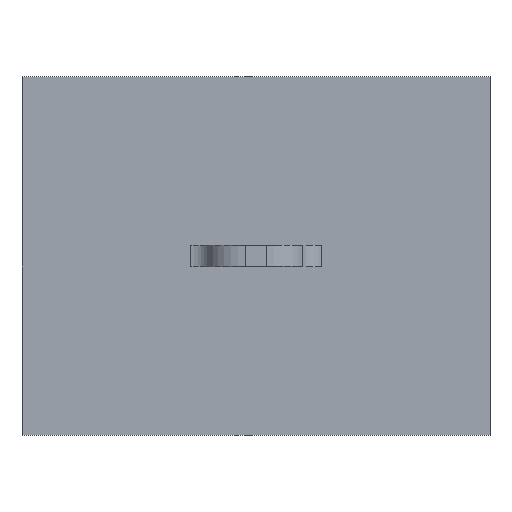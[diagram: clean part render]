
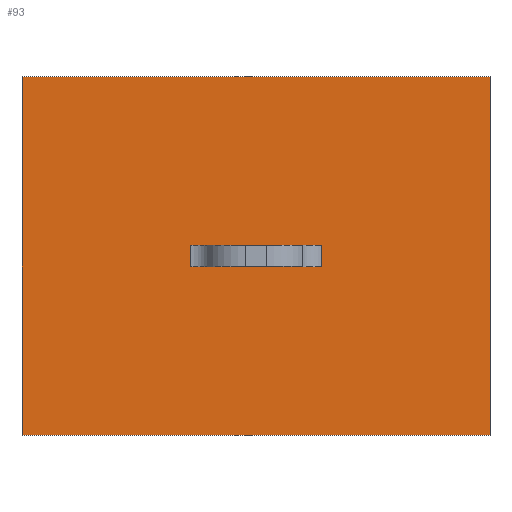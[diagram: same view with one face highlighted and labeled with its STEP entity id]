
A CAD part, top view. The second image highlights one B-rep face of the part: STEP entity #93.
In plain terms, the highlighted planar face has unit normal (0, 0, 1).
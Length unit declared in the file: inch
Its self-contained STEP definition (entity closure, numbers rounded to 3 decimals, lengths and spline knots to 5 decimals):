
#93=ADVANCED_FACE('',(#132,#133),#134,.F.);
#132=FACE_OUTER_BOUND('',#174,.T.);
#133=FACE_BOUND('',#175,.T.);
#134=PLANE('',#176);
#174=EDGE_LOOP('',(#326,#327,#328,#329));
#175=EDGE_LOOP('',(#330,#331,#332,#333,#334,#335,#336,#337));
#176=AXIS2_PLACEMENT_3D('',#338,#339,#340);
#326=ORIENTED_EDGE('',*,*,#359,.T.);
#327=ORIENTED_EDGE('',*,*,#362,.T.);
#328=ORIENTED_EDGE('',*,*,#352,.T.);
#329=ORIENTED_EDGE('',*,*,#356,.T.);
#330=ORIENTED_EDGE('',*,*,#406,.T.);
#331=ORIENTED_EDGE('',*,*,#392,.T.);
#332=ORIENTED_EDGE('',*,*,#388,.T.);
#333=ORIENTED_EDGE('',*,*,#397,.T.);
#334=ORIENTED_EDGE('',*,*,#407,.T.);
#335=ORIENTED_EDGE('',*,*,#398,.F.);
#336=ORIENTED_EDGE('',*,*,#391,.F.);
#337=ORIENTED_EDGE('',*,*,#403,.F.);
#338=CARTESIAN_POINT('',(-5.75758,-0.16485,-8.93485));
#339=DIRECTION('',(0.0,0.,-1.0));
#340=DIRECTION('',(1.0,0.0,0.0));
#352=EDGE_CURVE('',#408,#409,#410,.F.);
#356=EDGE_CURVE('',#409,#416,#417,.T.);
#359=EDGE_CURVE('',#416,#421,#422,.F.);
#362=EDGE_CURVE('',#421,#408,#426,.T.);
#388=EDGE_CURVE('',#469,#454,#472,.T.);
#391=EDGE_CURVE('',#463,#460,#475,.T.);
#392=EDGE_CURVE('',#476,#469,#477,.T.);
#397=EDGE_CURVE('',#454,#483,#485,.T.);
#398=EDGE_CURVE('',#460,#486,#487,.T.);
#403=EDGE_CURVE('',#493,#463,#495,.T.);
#406=EDGE_CURVE('',#493,#476,#498,.T.);
#407=EDGE_CURVE('',#483,#486,#499,.T.);
#408=VERTEX_POINT('',#500);
#409=VERTEX_POINT('',#501);
#410=LINE('',#502,#503);
#416=VERTEX_POINT('',#512);
#417=LINE('',#513,#514);
#421=VERTEX_POINT('',#520);
#422=LINE('',#521,#522);
#426=LINE('',#528,#529);
#454=VERTEX_POINT('',#566);
#460=VERTEX_POINT('',#573);
#463=VERTEX_POINT('',#576);
#469=VERTEX_POINT('',#583);
#472=LINE('',#586,#587);
#475=LINE('',#592,#593);
#476=VERTEX_POINT('',#594);
#477=LINE('',#595,#596);
#483=VERTEX_POINT('',#603);
#485=LINE('',#605,#606);
#486=VERTEX_POINT('',#607);
#487=LINE('',#608,#609);
#493=VERTEX_POINT('',#616);
#495=LINE('',#618,#619);
#498=LINE('',#624,#625);
#499=LINE('',#626,#627);
#500=CARTESIAN_POINT('',(0.36985,-9.96207,-8.93485));
#501=CARTESIAN_POINT('',(0.36985,-7.83727,-8.93485));
#502=CARTESIAN_POINT('',(0.36985,-4.50701,-8.93485));
#503=VECTOR('',#628,1.0);
#512=CARTESIAN_POINT('',(-2.40557,-7.83727,-8.93485));
#513=CARTESIAN_POINT('',(-3.42097,-7.83727,-8.93485));
#514=VECTOR('',#632,1.0);
#520=CARTESIAN_POINT('',(-2.40557,-9.96207,-8.93485));
#521=CARTESIAN_POINT('',(-2.40557,-4.50701,-8.93485));
#522=VECTOR('',#635,1.0);
#528=CARTESIAN_POINT('',(-3.42097,-9.96207,-8.93485));
#529=VECTOR('',#638,1.0);
#566=CARTESIAN_POINT('',(-1.26913,-8.96221,-8.93485));
#573=CARTESIAN_POINT('',(-1.26913,-8.83721,-8.93485));
#576=CARTESIAN_POINT('',(-0.76827,-8.83721,-8.93485));
#583=CARTESIAN_POINT('',(-0.76827,-8.96221,-8.93485));
#586=CARTESIAN_POINT('',(-0.76827,-8.96221,-8.93485));
#587=VECTOR('',#692,0.50086);
#592=CARTESIAN_POINT('',(-0.76827,-8.83721,-8.93485));
#593=VECTOR('',#695,0.50086);
#594=CARTESIAN_POINT('',(-0.63058,-8.96221,-8.93485));
#595=CARTESIAN_POINT('',(-0.63058,-8.96221,-8.93485));
#596=VECTOR('',#696,0.1377);
#603=CARTESIAN_POINT('',(-1.4058,-8.96221,-8.93485));
#605=CARTESIAN_POINT('',(-1.26913,-8.96221,-8.93485));
#606=VECTOR('',#707,0.13666);
#607=CARTESIAN_POINT('',(-1.4058,-8.83721,-8.93485));
#608=CARTESIAN_POINT('',(-1.26913,-8.83721,-8.93485));
#609=VECTOR('',#708,0.13666);
#616=CARTESIAN_POINT('',(-0.63058,-8.83721,-8.93485));
#618=CARTESIAN_POINT('',(-0.63058,-8.83721,-8.93485));
#619=VECTOR('',#719,0.1377);
#624=CARTESIAN_POINT('',(-0.63058,-8.83721,-8.93485));
#625=VECTOR('',#722,0.125);
#626=CARTESIAN_POINT('',(-1.4058,-8.96221,-8.93485));
#627=VECTOR('',#723,0.125);
#628=DIRECTION('',(0.0,-1.0,0.));
#632=DIRECTION('',(-1.0,0.0,0.0));
#635=DIRECTION('',(0.0,1.0,0.));
#638=DIRECTION('',(1.0,0.0,0.0));
#692=DIRECTION('',(-1.0,0.0,0.0));
#695=DIRECTION('',(-1.0,0.0,0.0));
#696=DIRECTION('',(-1.0,0.0,0.0));
#707=DIRECTION('',(-1.0,0.0,0.0));
#708=DIRECTION('',(-1.0,0.0,0.0));
#719=DIRECTION('',(-1.0,0.0,0.0));
#722=DIRECTION('',(0.0,-1.0,0.));
#723=DIRECTION('',(0.0,1.0,0.));
